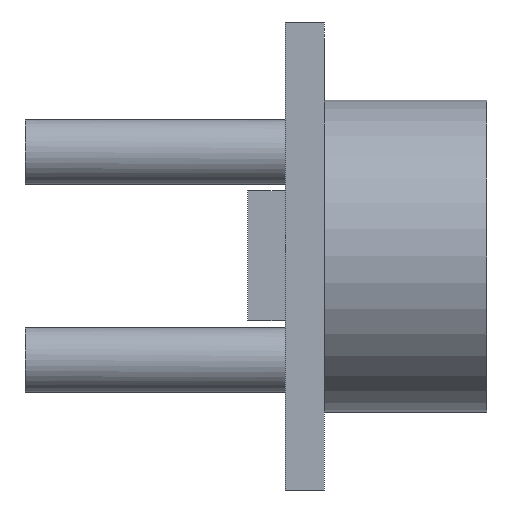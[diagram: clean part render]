
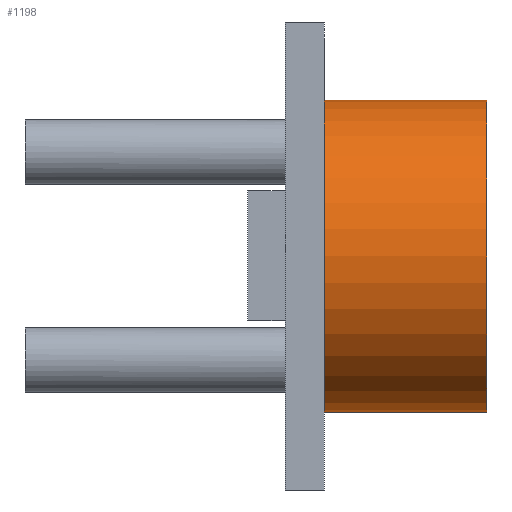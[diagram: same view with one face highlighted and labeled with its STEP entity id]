
A CAD part, front view. The second image highlights one B-rep face of the part: STEP entity #1198.
In plain terms, the highlighted cylindrical face has radius 6 mm (diameter 12 mm), a full revolution.
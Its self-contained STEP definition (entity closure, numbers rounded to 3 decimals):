
#32 = PLANE('',#33);
#33 = AXIS2_PLACEMENT_3D('',#34,#35,#36);
#34 = CARTESIAN_POINT('',(49.,-7.1,-5.));
#35 = DIRECTION('',(-1.,0.,0.));
#36 = DIRECTION('',(0.,0.,1.));
#364 = EDGE_CURVE('',#365,#365,#367,.T.);
#365 = VERTEX_POINT('',#366);
#366 = CARTESIAN_POINT('',(49.,-13.6,-2.));
#367 = SURFACE_CURVE('',#368,(#373,#384),.PCURVE_S1.);
#368 = CIRCLE('',#369,6.);
#369 = AXIS2_PLACEMENT_3D('',#370,#371,#372);
#370 = CARTESIAN_POINT('',(49.,-13.6,4.));
#371 = DIRECTION('',(1.,0.,0.));
#372 = DIRECTION('',(0.,0.,-1.));
#373 = PCURVE('',#32,#374);
#374 = DEFINITIONAL_REPRESENTATION('',(#375),#383);
#375 = ( BOUNDED_CURVE() B_SPLINE_CURVE(2,(#376,#377,#378,#379,#380,#381
,#382),.UNSPECIFIED.,.T.,.F.) B_SPLINE_CURVE_WITH_KNOTS((1,2,2,2,2,1),(
    -2.094,0.,2.094,4.189,6.283,
8.378),.UNSPECIFIED.) CURVE() GEOMETRIC_REPRESENTATION_ITEM() 
RATIONAL_B_SPLINE_CURVE((1.,0.5,1.,0.5,1.,0.5,1.)) REPRESENTATION_ITEM(
  '') );
#376 = CARTESIAN_POINT('',(3.,-6.5));
#377 = CARTESIAN_POINT('',(3.,3.892));
#378 = CARTESIAN_POINT('',(12.,-1.304));
#379 = CARTESIAN_POINT('',(21.,-6.5));
#380 = CARTESIAN_POINT('',(12.,-11.696));
#381 = CARTESIAN_POINT('',(3.,-16.892));
#382 = CARTESIAN_POINT('',(3.,-6.5));
#383 = ( GEOMETRIC_REPRESENTATION_CONTEXT(2) 
PARAMETRIC_REPRESENTATION_CONTEXT() REPRESENTATION_CONTEXT('2D SPACE',''
  ) );
#384 = PCURVE('',#385,#390);
#385 = CYLINDRICAL_SURFACE('',#386,6.);
#386 = AXIS2_PLACEMENT_3D('',#387,#388,#389);
#387 = CARTESIAN_POINT('',(48.5,-13.6,4.));
#388 = DIRECTION('',(1.,0.,0.));
#389 = DIRECTION('',(0.,0.,-1.));
#390 = DEFINITIONAL_REPRESENTATION('',(#391),#395);
#391 = LINE('',#392,#393);
#392 = CARTESIAN_POINT('',(0.,0.5));
#393 = VECTOR('',#394,1.);
#394 = DIRECTION('',(1.,0.));
#395 = ( GEOMETRIC_REPRESENTATION_CONTEXT(2) 
PARAMETRIC_REPRESENTATION_CONTEXT() REPRESENTATION_CONTEXT('2D SPACE',''
  ) );
#1198 = ADVANCED_FACE('',(#1199),#385,.T.);
#1199 = FACE_BOUND('',#1200,.T.);
#1200 = EDGE_LOOP('',(#1201,#1224,#1251,#1252));
#1201 = ORIENTED_EDGE('',*,*,#1202,.T.);
#1202 = EDGE_CURVE('',#365,#1203,#1205,.T.);
#1203 = VERTEX_POINT('',#1204);
#1204 = CARTESIAN_POINT('',(55.25,-13.6,-2.));
#1205 = SEAM_CURVE('',#1206,(#1210,#1217),.PCURVE_S1.);
#1206 = LINE('',#1207,#1208);
#1207 = CARTESIAN_POINT('',(48.5,-13.6,-2.));
#1208 = VECTOR('',#1209,1.);
#1209 = DIRECTION('',(1.,0.,0.));
#1210 = PCURVE('',#385,#1211);
#1211 = DEFINITIONAL_REPRESENTATION('',(#1212),#1216);
#1212 = LINE('',#1213,#1214);
#1213 = CARTESIAN_POINT('',(6.283,-0.));
#1214 = VECTOR('',#1215,1.);
#1215 = DIRECTION('',(0.,1.));
#1216 = ( GEOMETRIC_REPRESENTATION_CONTEXT(2) 
PARAMETRIC_REPRESENTATION_CONTEXT() REPRESENTATION_CONTEXT('2D SPACE',''
  ) );
#1217 = PCURVE('',#385,#1218);
#1218 = DEFINITIONAL_REPRESENTATION('',(#1219),#1223);
#1219 = LINE('',#1220,#1221);
#1220 = CARTESIAN_POINT('',(0.,-0.));
#1221 = VECTOR('',#1222,1.);
#1222 = DIRECTION('',(0.,1.));
#1223 = ( GEOMETRIC_REPRESENTATION_CONTEXT(2) 
PARAMETRIC_REPRESENTATION_CONTEXT() REPRESENTATION_CONTEXT('2D SPACE',''
  ) );
#1224 = ORIENTED_EDGE('',*,*,#1225,.F.);
#1225 = EDGE_CURVE('',#1203,#1203,#1226,.T.);
#1226 = SURFACE_CURVE('',#1227,(#1232,#1239),.PCURVE_S1.);
#1227 = CIRCLE('',#1228,6.);
#1228 = AXIS2_PLACEMENT_3D('',#1229,#1230,#1231);
#1229 = CARTESIAN_POINT('',(55.25,-13.6,4.));
#1230 = DIRECTION('',(1.,-0.,0.));
#1231 = DIRECTION('',(0.,0.,-1.));
#1232 = PCURVE('',#385,#1233);
#1233 = DEFINITIONAL_REPRESENTATION('',(#1234),#1238);
#1234 = LINE('',#1235,#1236);
#1235 = CARTESIAN_POINT('',(0.,6.75));
#1236 = VECTOR('',#1237,1.);
#1237 = DIRECTION('',(1.,0.));
#1238 = ( GEOMETRIC_REPRESENTATION_CONTEXT(2) 
PARAMETRIC_REPRESENTATION_CONTEXT() REPRESENTATION_CONTEXT('2D SPACE',''
  ) );
#1239 = PCURVE('',#1240,#1245);
#1240 = PLANE('',#1241);
#1241 = AXIS2_PLACEMENT_3D('',#1242,#1243,#1244);
#1242 = CARTESIAN_POINT('',(55.25,-13.6,4.));
#1243 = DIRECTION('',(1.,0.,0.));
#1244 = DIRECTION('',(0.,0.,-1.));
#1245 = DEFINITIONAL_REPRESENTATION('',(#1246),#1250);
#1246 = CIRCLE('',#1247,6.);
#1247 = AXIS2_PLACEMENT_2D('',#1248,#1249);
#1248 = CARTESIAN_POINT('',(0.,0.));
#1249 = DIRECTION('',(1.,0.));
#1250 = ( GEOMETRIC_REPRESENTATION_CONTEXT(2) 
PARAMETRIC_REPRESENTATION_CONTEXT() REPRESENTATION_CONTEXT('2D SPACE',''
  ) );
#1251 = ORIENTED_EDGE('',*,*,#1202,.F.);
#1252 = ORIENTED_EDGE('',*,*,#364,.T.);
